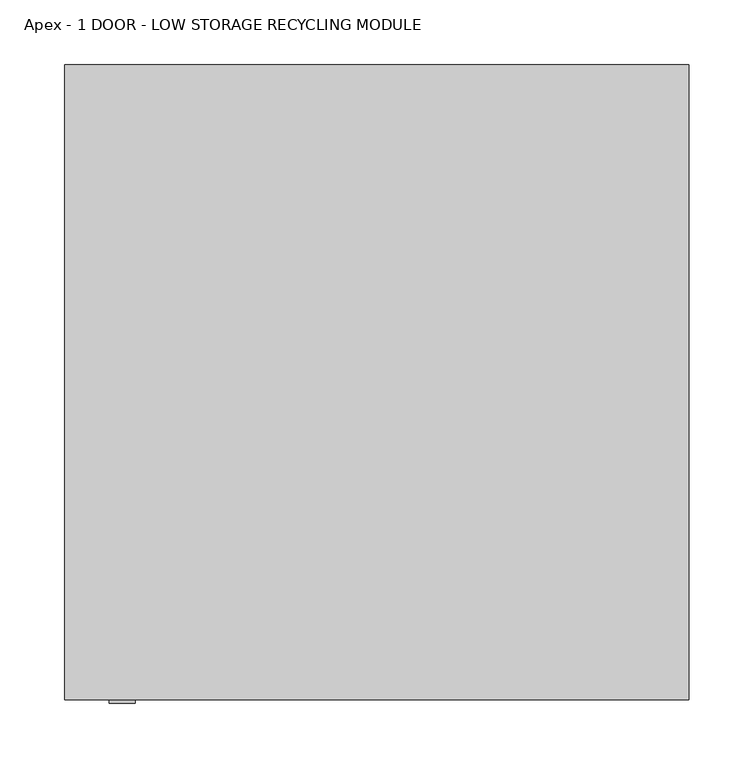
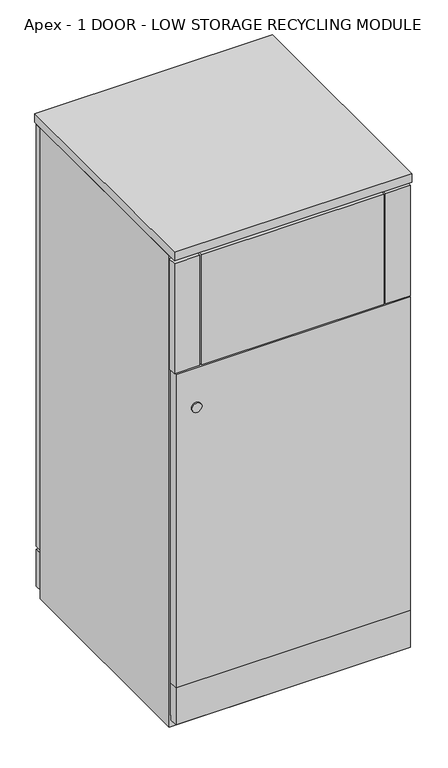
"""IFC4 building model written with IfcOpenShell, lengths in millimetres: furniture geometry, Apex - 1 DOOR - LOW STORAGE RECYCLING MODULE : APEX-SW-18-RCFP1 500mm(w) x 490mm(d) x 1028mm(h)."""

from ifc_helpers import new_model, si_unit, point, frame, frame_2d, origin, place, context, project, spatial, polyline, circle_curve, trimmed, segment, composite_curve, outline, extrude, source, transform, mapped, element, save


def apex_1_door_low_storage_recycling_module_13c922fa(model_context):
    return source(origin(), model_context, "Body", "SweptSolid", [
        extrude(outline(composite_curve([segment(trimmed(circle_curve(frame_2d((681.6890437, 44.3714114)), 10.0), [point((681.6890437, 34.3714114))], [point((681.6890437, 54.3714114))], False, "CARTESIAN"), True, "CONTINUOUS"), segment(trimmed(circle_curve(frame_2d((681.6890437, 44.3714114)), 10.0), [point((681.6890437, 54.3714114))], [point((681.6890437, 34.3714114))], False, "CARTESIAN"), True, "CONTINUOUS")], self_intersect=False)), frame((0.0, -492.5494383, 0.0), z_axis=(0.0, 1.0, 0.0), x_axis=(0.0, 0.0, 1.0)), (0.0, 0.0, 1.0), 2.5494383),
        extrude(outline(polyline([(424.4267986, -490.0), (55.0, -490.0), (55.0, -472.0), (424.4267986, -472.0), (424.4267986, -490.0)])), frame((0.0, 0.0, 768.0), z_axis=(0.0, 0.0, 1.0), x_axis=(1.0, 0.0, 0.0)), (0.0, 0.0, 1.0), 236.0),
        extrude(outline(polyline([(479.0, -490.0), (427.9730207, -490.0), (427.9730207, -472.0), (479.0, -472.0), (479.0, -490.0)])), frame((0.0, 0.0, 768.0), z_axis=(0.0, 0.0, 1.0), x_axis=(1.0, 0.0, 0.0)), (0.0, 0.0, 1.0), 236.0),
        extrude(outline(polyline([(51.0269793, -490.0), (0.0, -490.0), (0.0, -472.0), (51.0269793, -472.0), (51.0269793, -490.0)])), frame((0.0, 0.0, 768.0), z_axis=(0.0, 0.0, 1.0), x_axis=(1.0, 0.0, 0.0)), (0.0, 0.0, 1.0), 236.0),
        extrude(outline(polyline([(479.0, -490.0), (3.0, -490.0), (3.0, -472.0), (479.0, -472.0), (479.0, -490.0)])), frame((0.0, 0.0, 94.0), z_axis=(0.0, 0.0, 1.0), x_axis=(1.0, 0.0, 0.0)), (0.0, 0.0, 1.0), 671.0),
        extrude(outline(polyline([(482.0, -490.0), (0.0, -490.0), (0.0, 0.0), (482.0, 0.0), (482.0, -490.0)])), frame((0.0, 0.0, 1010.0), z_axis=(0.0, 0.0, 1.0), x_axis=(1.0, 0.0, 0.0)), (0.0, 0.0, 1.0), 18.0),
        extrude(outline(polyline([(1010.0, 482.0), (1010.0, 0.0), (0.0, 0.0), (0.0, 482.0), (1010.0, 482.0)]), holes=[polyline([(25.0, 479.0), (25.0, 3.0), (765.0, 3.0), (765.0, 479.0), (25.0, 479.0)])]), frame((0.0, -472.0, 0.0), z_axis=(0.0, 1.0, 0.0), x_axis=(0.0, 0.0, 1.0)), (0.0, 0.0, 1.0), 454.0),
        extrude(outline(polyline([(479.0, 0.0), (479.0, -18.0), (3.0, -18.0), (3.0, 0.0), (479.0, 0.0)])), frame((0.0, 0.0, 100.0), z_axis=(0.0, 0.0, 1.0), x_axis=(1.0, 0.0, 0.0)), (0.0, 0.0, 1.0), 904.0),
        extrude(outline(polyline([(479.0, -18.0), (3.0, -18.0), (3.0, 0.0), (479.0, 0.0), (479.0, -18.0)])), frame((0.0, 0.0, 15.0), z_axis=(0.0, 0.0, 1.0), x_axis=(1.0, 0.0, 0.0)), (0.0, 0.0, 1.0), 79.0),
        extrude(outline(polyline([(479.0, -490.0), (3.0, -490.0), (3.0, -472.0), (479.0, -472.0), (479.0, -490.0)])), frame((0.0, 0.0, 15.0), z_axis=(0.0, 0.0, 1.0), x_axis=(1.0, 0.0, 0.0)), (0.0, 0.0, 1.0), 79.0),
    ])


if __name__ == "__main__":
    model = new_model("IFC4")
    model_context = context("Model", 3, world=origin())
    ifc_project = project(units=[si_unit("LENGTHUNIT", "METRE", prefix="MILLI")], contexts=[model_context])
    site = spatial("IfcSite", under=ifc_project)
    building = spatial("IfcBuilding", under=site)
    placement = place(None, origin())
    apex_1_door_low_storage_recycling_module_shape = apex_1_door_low_storage_recycling_module_13c922fa(model_context)
    element("IfcFurniture", 1, ObjectType="Apex - 1 DOOR - LOW STORAGE RECYCLING MODULE : APEX-SW-18-RCFP1 500mm(w) x 490mm(d) x 1028mm(h)", at=placement, inside=building, context=model_context, shape_type="MappedRepresentation", body=[
        mapped(apex_1_door_low_storage_recycling_module_shape, transform((0.0, 0.0, 0.0), x_axis=(1.0, 0.0, 0.0), y_axis=(0.0, 1.0, 0.0), z_axis=(0.0, 0.0, 1.0))),
    ])
    save(model, "model.ifc")
